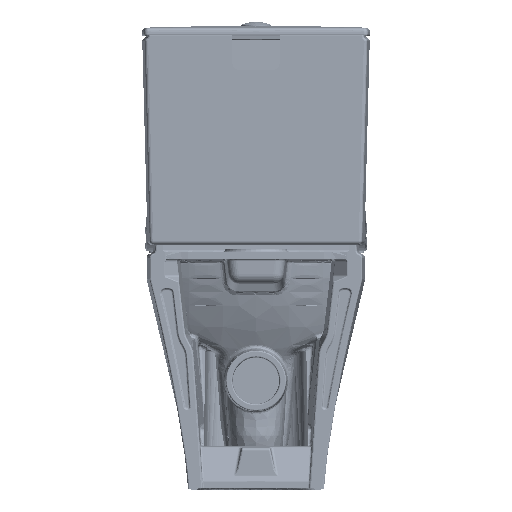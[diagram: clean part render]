
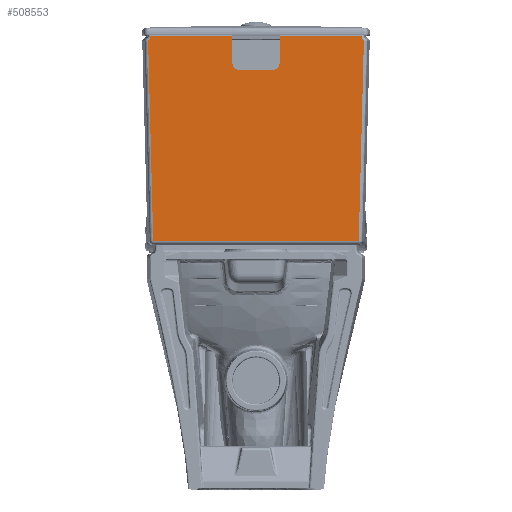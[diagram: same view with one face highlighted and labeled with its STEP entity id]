
A CAD part, left-side view. The second image highlights one B-rep face of the part: STEP entity #508553.
In plain terms, the highlighted planar face has unit normal (-1, 0, 0).
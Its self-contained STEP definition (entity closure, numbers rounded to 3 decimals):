
#507903=CARTESIAN_POINT('',(0.,174.027,19.));
#507904=VERTEX_POINT('',#507903);
#507905=CARTESIAN_POINT('',(0.,182.679,358.009));
#507906=VERTEX_POINT('',#507905);
#507907=CARTESIAN_POINT('',(0.,174.027,19.));
#507908=CARTESIAN_POINT('',(0.,175.758,86.802));
#507909=CARTESIAN_POINT('',(0.,177.488,154.604));
#507910=CARTESIAN_POINT('',(0.,179.218,222.405));
#507911=CARTESIAN_POINT('',(0.,180.949,290.207));
#507912=CARTESIAN_POINT('',(0.,182.679,358.009));
#507913=B_SPLINE_CURVE_WITH_KNOTS('',5,(#507907,#507908,#507909,#507910,#507911,#507912),.UNSPECIFIED.,.F.,.U.,(6,6),(131.193,470.313),.UNSPECIFIED.);
#507914=EDGE_CURVE('',#507904,#507906,#507913,.T.);
#508324=CARTESIAN_POINT('',(0.,-174.027,19.));
#508325=VERTEX_POINT('',#508324);
#508326=CARTESIAN_POINT('',(0.0,174.027,19.0));
#508327=DIRECTION('',(0.0,-1.0,0.0));
#508328=VECTOR('',#508327,348.055);
#508329=LINE('',#508326,#508328);
#508330=EDGE_CURVE('',#507904,#508325,#508329,.T.);
#508443=CARTESIAN_POINT('',(0.0,0.0,15.0));
#508444=DIRECTION('',(-1.0,0.0,0.0));
#508445=DIRECTION('',(0.0,0.0,1.0));
#508446=AXIS2_PLACEMENT_3D('',#508443,#508444,#508445);
#508447=PLANE('',#508446);
#508448=CARTESIAN_POINT('',(0.0,-40.0,320.0));
#508449=VERTEX_POINT('',#508448);
#508450=CARTESIAN_POINT('',(0.0,-28.,308.0));
#508451=VERTEX_POINT('',#508450);
#508452=CARTESIAN_POINT('',(0.0,-28.,320.0));
#508453=DIRECTION('',(-1.0,0.0,0.0));
#508454=DIRECTION('',(0.0,1.0,0.0));
#508455=AXIS2_PLACEMENT_3D('',#508452,#508453,#508454);
#508456=CIRCLE('',#508455,12.);
#508457=EDGE_CURVE('',#508449,#508451,#508456,.F.);
#508458=ORIENTED_EDGE('',*,*,#508457,.T.);
#508459=CARTESIAN_POINT('',(0.0,28.,308.0));
#508460=VERTEX_POINT('',#508459);
#508461=CARTESIAN_POINT('',(0.0,-28.,308.0));
#508462=DIRECTION('',(0.0,1.0,0.0));
#508463=VECTOR('',#508462,56.);
#508464=LINE('',#508461,#508463);
#508465=EDGE_CURVE('',#508451,#508460,#508464,.T.);
#508466=ORIENTED_EDGE('',*,*,#508465,.T.);
#508467=CARTESIAN_POINT('',(0.0,40.0,320.0));
#508468=VERTEX_POINT('',#508467);
#508469=CARTESIAN_POINT('',(0.0,28.,320.));
#508470=DIRECTION('',(1.0,0.0,0.0));
#508471=DIRECTION('',(0.0,1.0,0.0));
#508472=AXIS2_PLACEMENT_3D('',#508469,#508470,#508471);
#508473=CIRCLE('',#508472,12.);
#508474=EDGE_CURVE('',#508460,#508468,#508473,.T.);
#508475=ORIENTED_EDGE('',*,*,#508474,.T.);
#508476=CARTESIAN_POINT('',(0.0,40.,366.));
#508477=VERTEX_POINT('',#508476);
#508478=CARTESIAN_POINT('',(0.0,40.0,320.0));
#508479=DIRECTION('',(0.0,0.0,1.0));
#508480=VECTOR('',#508479,46.);
#508481=LINE('',#508478,#508480);
#508482=EDGE_CURVE('',#508468,#508477,#508481,.T.);
#508483=ORIENTED_EDGE('',*,*,#508482,.T.);
#508484=CARTESIAN_POINT('',(0.,178.681,366.));
#508485=VERTEX_POINT('',#508484);
#508486=CARTESIAN_POINT('',(0.0,178.681,366.));
#508487=DIRECTION('',(0.0,-1.0,0.));
#508488=VECTOR('',#508487,138.681);
#508489=LINE('',#508486,#508488);
#508490=EDGE_CURVE('',#508477,#508485,#508489,.F.);
#508491=ORIENTED_EDGE('',*,*,#508490,.T.);
#508492=CARTESIAN_POINT('',(0.,178.841,364.475));
#508493=VERTEX_POINT('',#508492);
#508494=CARTESIAN_POINT('',(0.0,178.681,366.));
#508495=DIRECTION('',(0.0,0.105,-0.995));
#508496=VECTOR('',#508495,1.534);
#508497=LINE('',#508494,#508496);
#508498=EDGE_CURVE('',#508485,#508493,#508497,.T.);
#508499=ORIENTED_EDGE('',*,*,#508498,.T.);
#508500=CARTESIAN_POINT('',(0.,187.767,365.399));
#508501=DIRECTION('',(1.,0.,0.));
#508502=DIRECTION('',(0.,-0.581,0.814));
#508503=AXIS2_PLACEMENT_3D('',#508500,#508501,#508502);
#508504=ELLIPSE('',#508503,8.986,8.97);
#508505=EDGE_CURVE('',#508493,#507906,#508504,.T.);
#508506=ORIENTED_EDGE('',*,*,#508505,.T.);
#508507=ORIENTED_EDGE('',*,*,#507914,.F.);
#508508=ORIENTED_EDGE('',*,*,#508330,.T.);
#508509=CARTESIAN_POINT('',(0.,-182.679,358.009));
#508510=VERTEX_POINT('',#508509);
#508511=CARTESIAN_POINT('',(0.0,-174.027,19.0));
#508512=CARTESIAN_POINT('',(0.0,-175.758,86.802));
#508513=CARTESIAN_POINT('',(0.0,-177.488,154.604));
#508514=CARTESIAN_POINT('',(0.0,-179.218,222.406));
#508515=CARTESIAN_POINT('',(0.0,-180.949,290.207));
#508516=CARTESIAN_POINT('',(0.0,-182.679,358.009));
#508517=B_SPLINE_CURVE_WITH_KNOTS('',5,(#508511,#508512,#508513,#508514,#508515,#508516),.UNSPECIFIED.,.F.,.U.,(6,6),(0.0,479.588),.UNSPECIFIED.);
#508518=EDGE_CURVE('',#508325,#508510,#508517,.T.);
#508519=ORIENTED_EDGE('',*,*,#508518,.T.);
#508520=CARTESIAN_POINT('',(0.,-178.841,364.475));
#508521=VERTEX_POINT('',#508520);
#508522=CARTESIAN_POINT('',(0.,-187.767,365.399));
#508523=DIRECTION('',(-1.,0.,0.));
#508524=DIRECTION('',(0.,-0.581,-0.814));
#508525=AXIS2_PLACEMENT_3D('',#508522,#508523,#508524);
#508526=ELLIPSE('',#508525,8.986,8.97);
#508527=EDGE_CURVE('',#508521,#508510,#508526,.T.);
#508528=ORIENTED_EDGE('',*,*,#508527,.F.);
#508529=CARTESIAN_POINT('',(0.,-178.681,366.));
#508530=VERTEX_POINT('',#508529);
#508531=CARTESIAN_POINT('',(0.0,-178.841,364.475));
#508532=DIRECTION('',(0.0,0.105,0.995));
#508533=VECTOR('',#508532,1.534);
#508534=LINE('',#508531,#508533);
#508535=EDGE_CURVE('',#508530,#508521,#508534,.F.);
#508536=ORIENTED_EDGE('',*,*,#508535,.F.);
#508537=CARTESIAN_POINT('',(0.0,-40.,366.0));
#508538=VERTEX_POINT('',#508537);
#508539=CARTESIAN_POINT('',(0.0,-40.,366.));
#508540=DIRECTION('',(0.0,-1.0,0.));
#508541=VECTOR('',#508540,138.681);
#508542=LINE('',#508539,#508541);
#508543=EDGE_CURVE('',#508538,#508530,#508542,.T.);
#508544=ORIENTED_EDGE('',*,*,#508543,.F.);
#508545=CARTESIAN_POINT('',(0.0,-40.0,320.0));
#508546=DIRECTION('',(0.0,0.0,1.0));
#508547=VECTOR('',#508546,46.0);
#508548=LINE('',#508545,#508547);
#508549=EDGE_CURVE('',#508449,#508538,#508548,.T.);
#508550=ORIENTED_EDGE('',*,*,#508549,.F.);
#508551=EDGE_LOOP('',(#508458,#508466,#508475,#508483,#508491,#508499,#508506,#508507,#508508,#508519,#508528,#508536,#508544,#508550));
#508552=FACE_OUTER_BOUND('',#508551,.T.);
#508553=ADVANCED_FACE('',(#508552),#508447,.T.);
